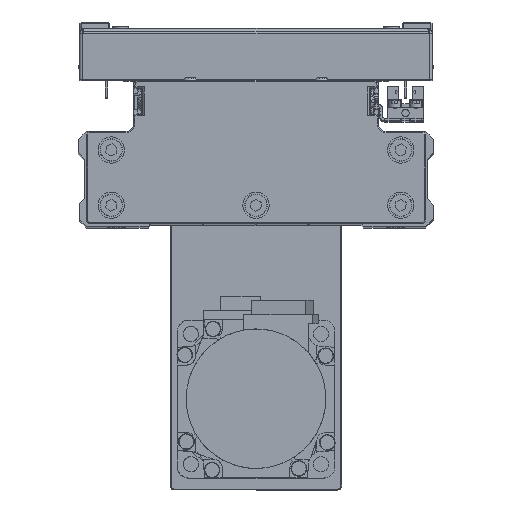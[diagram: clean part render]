
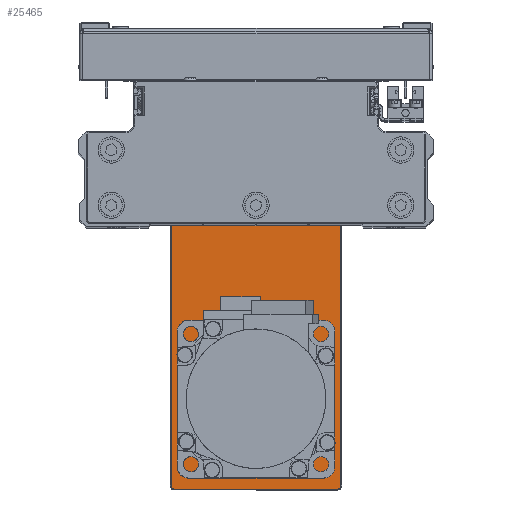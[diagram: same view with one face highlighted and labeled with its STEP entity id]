
A CAD part, top view. The second image highlights one B-rep face of the part: STEP entity #25465.
In plain terms, the highlighted planar face has unit normal (0, 0, 1) as drawn and (0, 1, 0) by its records, which use the part's own axes.
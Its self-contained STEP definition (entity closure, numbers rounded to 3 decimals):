
#211 = DIRECTION ( 'NONE',  ( -1., 0., 0. ) ) ;
#423 = CIRCLE ( 'NONE', #25089, 1.525 ) ;
#1139 = DIRECTION ( 'NONE',  ( 0., 1., 0. ) ) ;
#1175 = CARTESIAN_POINT ( 'NONE',  ( -50.5, 6., 0. ) ) ;
#1218 = CARTESIAN_POINT ( 'NONE',  ( 75.992, 6., -7.026 ) ) ;
#1502 = CARTESIAN_POINT ( 'NONE',  ( 84.7, 6., 31. ) ) ;
#1545 = EDGE_CURVE ( 'NONE', #28504, #30528, #8709, .T. ) ;
#1922 = DIRECTION ( 'NONE',  ( 0., 1., 0. ) ) ;
#3107 = CARTESIAN_POINT ( 'NONE',  ( -83.5, 6., -31. ) ) ;
#3225 = CARTESIAN_POINT ( 'NONE',  ( -50.5, 6., 0. ) ) ;
#4099 = LINE ( 'NONE', #17583, #33161 ) ;
#5066 = CARTESIAN_POINT ( 'NONE',  ( 83.5, 6., -31. ) ) ;
#5354 = CARTESIAN_POINT ( 'NONE',  ( 0., 6., 0. ) ) ;
#5925 = EDGE_CURVE ( 'NONE', #13039, #28504, #37949, .T. ) ;
#6423 = DIRECTION ( 'NONE',  ( 0., 0., -1. ) ) ;
#6665 = EDGE_CURVE ( 'NONE', #17266, #29186, #34546, .T. ) ;
#6845 = DIRECTION ( 'NONE',  ( 0., 0., -1. ) ) ;
#6988 = EDGE_CURVE ( 'NONE', #10129, #25588, #4099, .T. ) ;
#7180 = CARTESIAN_POINT ( 'NONE',  ( 61.051, 6., 25.017 ) ) ;
#7294 = DIRECTION ( 'NONE',  ( 0., 0., 1. ) ) ;
#7670 = AXIS2_PLACEMENT_3D ( 'NONE', #1175, #14646, #28095 ) ;
#7687 = AXIS2_PLACEMENT_3D ( 'NONE', #5354, #18835, #32276 ) ;
#7691 = CARTESIAN_POINT ( 'NONE',  ( 0., 6., 32.2 ) ) ;
#7777 = EDGE_LOOP ( 'NONE', ( #35139, #20414, #18039, #18861, #39254, #39936, #21600, #19671 ) ) ;
#7851 = DIRECTION ( 'NONE',  ( 0., 0., -1. ) ) ;
#8149 = CARTESIAN_POINT ( 'NONE',  ( 83.5, 6., 32.2 ) ) ;
#8670 = FACE_OUTER_BOUND ( 'NONE', #7777, .T. ) ;
#8709 = CIRCLE ( 'NONE', #33382, 1.2 ) ;
#8858 = EDGE_CURVE ( 'NONE', #37905, #39900, #28564, .T. ) ;
#9545 = AXIS2_PLACEMENT_3D ( 'NONE', #31370, #1139, #14616 ) ;
#9618 = VECTOR ( 'NONE', #7851, 1000. ) ;
#9661 = CARTESIAN_POINT ( 'NONE',  ( 52.5, 6., 0. ) ) ;
#10129 = VERTEX_POINT ( 'NONE', #19786 ) ;
#10370 = CARTESIAN_POINT ( 'NONE',  ( 75.992, 6., -10.076 ) ) ;
#11040 = DIRECTION ( 'NONE',  ( 0., 1., 0. ) ) ;
#11703 = CIRCLE ( 'NONE', #36370, 15. ) ;
#11977 = FACE_BOUND ( 'NONE', #22394, .T. ) ;
#12167 = CIRCLE ( 'NONE', #36841, 10.3 ) ;
#12427 = VERTEX_POINT ( 'NONE', #43215 ) ;
#12963 = EDGE_CURVE ( 'NONE', #25989, #16066, #26706, .T. ) ;
#13039 = VERTEX_POINT ( 'NONE', #21691 ) ;
#13098 = VERTEX_POINT ( 'NONE', #15282 ) ;
#13247 = ORIENTED_EDGE ( 'NONE', *, *, #6665, .F. ) ;
#13308 = DIRECTION ( 'NONE',  ( 0., 0., 1. ) ) ;
#13504 = EDGE_CURVE ( 'NONE', #13932, #26601, #22512, .T. ) ;
#13932 = VERTEX_POINT ( 'NONE', #33178 ) ;
#14616 = DIRECTION ( 'NONE',  ( 0., 0., 1. ) ) ;
#14646 = DIRECTION ( 'NONE',  ( 0., 1., 0. ) ) ;
#15037 = CARTESIAN_POINT ( 'NONE',  ( -84.7, 6., 31. ) ) ;
#15282 = CARTESIAN_POINT ( 'NONE',  ( -83.5, 6., -32.2 ) ) ;
#15384 = DIRECTION ( 'NONE',  ( 0., 0., 1. ) ) ;
#15398 = EDGE_CURVE ( 'NONE', #12427, #17067, #12167, .T. ) ;
#15470 = ORIENTED_EDGE ( 'NONE', *, *, #34548, .F. ) ;
#15513 = AXIS2_PLACEMENT_3D ( 'NONE', #32156, #1922, #15384 ) ;
#16066 = VERTEX_POINT ( 'NONE', #32103 ) ;
#16136 = CIRCLE ( 'NONE', #40810, 1.2 ) ;
#16578 = DIRECTION ( 'NONE',  ( 0., 1., 0. ) ) ;
#16706 = DIRECTION ( 'NONE',  ( 0., 1., 0. ) ) ;
#16997 = LINE ( 'NONE', #30447, #42855 ) ;
#17067 = VERTEX_POINT ( 'NONE', #39274 ) ;
#17266 = VERTEX_POINT ( 'NONE', #10370 ) ;
#17447 = CIRCLE ( 'NONE', #42071, 1.2 ) ;
#17583 = CARTESIAN_POINT ( 'NONE',  ( -84.7, 6., 0. ) ) ;
#17687 = AXIS2_PLACEMENT_3D ( 'NONE', #9661, #23139, #36572 ) ;
#17883 = CARTESIAN_POINT ( 'NONE',  ( -50.5, 6., -15. ) ) ;
#17988 = EDGE_CURVE ( 'NONE', #25588, #13039, #16136, .T. ) ;
#18039 = ORIENTED_EDGE ( 'NONE', *, *, #39427, .T. ) ;
#18538 = DIRECTION ( 'NONE',  ( 0., 1., 0. ) ) ;
#18549 = AXIS2_PLACEMENT_3D ( 'NONE', #24098, #37551, #7294 ) ;
#18835 = DIRECTION ( 'NONE',  ( 0., -1., 0. ) ) ;
#18861 = ORIENTED_EDGE ( 'NONE', *, *, #6988, .T. ) ;
#19671 = ORIENTED_EDGE ( 'NONE', *, *, #36875, .T. ) ;
#19786 = CARTESIAN_POINT ( 'NONE',  ( -84.7, 6., -31. ) ) ;
#20414 = ORIENTED_EDGE ( 'NONE', *, *, #24771, .T. ) ;
#20485 = ORIENTED_EDGE ( 'NONE', *, *, #21444, .F. ) ;
#21183 = DIRECTION ( 'NONE',  ( 1., 0., 0. ) ) ;
#21444 = EDGE_CURVE ( 'NONE', #16066, #25989, #11703, .T. ) ;
#21600 = ORIENTED_EDGE ( 'NONE', *, *, #1545, .T. ) ;
#21691 = CARTESIAN_POINT ( 'NONE',  ( -83.5, 6., 32.2 ) ) ;
#22142 = FACE_BOUND ( 'NONE', #42698, .T. ) ;
#22394 = EDGE_LOOP ( 'NONE', ( #15470, #43185 ) ) ;
#22512 = CIRCLE ( 'NONE', #28154, 1.2 ) ;
#22633 = ORIENTED_EDGE ( 'NONE', *, *, #32004, .T. ) ;
#23139 = DIRECTION ( 'NONE',  ( 0., -1., 0. ) ) ;
#23228 = CARTESIAN_POINT ( 'NONE',  ( 52.5, 6., 0. ) ) ;
#23640 = CARTESIAN_POINT ( 'NONE',  ( -83.5, 6., 31. ) ) ;
#24098 = CARTESIAN_POINT ( 'NONE',  ( 61.051, 6., 23.492 ) ) ;
#24516 = DIRECTION ( 'NONE',  ( 0., 0., -1. ) ) ;
#24644 = LINE ( 'NONE', #38103, #9618 ) ;
#24771 = EDGE_CURVE ( 'NONE', #26601, #13098, #16997, .T. ) ;
#25089 = AXIS2_PLACEMENT_3D ( 'NONE', #30080, #43524, #13308 ) ;
#25455 = FACE_BOUND ( 'NONE', #41074, .T. ) ;
#25465 = ADVANCED_FACE ( 'NONE', ( #11977, #25455, #38912, #8670, #22142 ), #35585, .F. ) ;
#25588 = VERTEX_POINT ( 'NONE', #15037 ) ;
#25689 = CARTESIAN_POINT ( 'NONE',  ( 83.5, 6., -32.2 ) ) ;
#25989 = VERTEX_POINT ( 'NONE', #17883 ) ;
#26601 = VERTEX_POINT ( 'NONE', #25689 ) ;
#26706 = CIRCLE ( 'NONE', #7670, 15. ) ;
#26870 = VECTOR ( 'NONE', #21183, 1000. ) ;
#28095 = DIRECTION ( 'NONE',  ( 0., 0., 1. ) ) ;
#28154 = AXIS2_PLACEMENT_3D ( 'NONE', #5066, #18538, #31987 ) ;
#28504 = VERTEX_POINT ( 'NONE', #8149 ) ;
#28564 = CIRCLE ( 'NONE', #9545, 1.525 ) ;
#29186 = VERTEX_POINT ( 'NONE', #1218 ) ;
#30035 = DIRECTION ( 'NONE',  ( 0., 0., -1. ) ) ;
#30080 = CARTESIAN_POINT ( 'NONE',  ( 75.992, 6., -8.551 ) ) ;
#30149 = DIRECTION ( 'NONE',  ( 0., 0., 1. ) ) ;
#30447 = CARTESIAN_POINT ( 'NONE',  ( 0., 6., -32.2 ) ) ;
#30528 = VERTEX_POINT ( 'NONE', #1502 ) ;
#30798 = ORIENTED_EDGE ( 'NONE', *, *, #15398, .T. ) ;
#31029 = DIRECTION ( 'NONE',  ( 0., 0., 1. ) ) ;
#31370 = CARTESIAN_POINT ( 'NONE',  ( 61.051, 6., 23.492 ) ) ;
#31987 = DIRECTION ( 'NONE',  ( 0., 0., -1. ) ) ;
#32004 = EDGE_CURVE ( 'NONE', #17067, #12427, #36699, .T. ) ;
#32103 = CARTESIAN_POINT ( 'NONE',  ( -50.5, 6., 15. ) ) ;
#32156 = CARTESIAN_POINT ( 'NONE',  ( 75.992, 6., -8.551 ) ) ;
#32276 = DIRECTION ( 'NONE',  ( 0., 0., -1. ) ) ;
#33161 = VECTOR ( 'NONE', #31029, 1000. ) ;
#33178 = CARTESIAN_POINT ( 'NONE',  ( 84.7, 6., -31. ) ) ;
#33382 = AXIS2_PLACEMENT_3D ( 'NONE', #41259, #11040, #24516 ) ;
#34546 = CIRCLE ( 'NONE', #15513, 1.525 ) ;
#34548 = EDGE_CURVE ( 'NONE', #39900, #37905, #37592, .T. ) ;
#34872 = ORIENTED_EDGE ( 'NONE', *, *, #37997, .F. ) ;
#35139 = ORIENTED_EDGE ( 'NONE', *, *, #13504, .T. ) ;
#35585 = PLANE ( 'NONE',  #7687 ) ;
#36370 = AXIS2_PLACEMENT_3D ( 'NONE', #3225, #16706, #30149 ) ;
#36572 = DIRECTION ( 'NONE',  ( 0., 0., -1. ) ) ;
#36665 = DIRECTION ( 'NONE',  ( 0., -1., 0. ) ) ;
#36699 = CIRCLE ( 'NONE', #17687, 10.3 ) ;
#36841 = AXIS2_PLACEMENT_3D ( 'NONE', #23228, #36665, #6423 ) ;
#36875 = EDGE_CURVE ( 'NONE', #30528, #13932, #24644, .T. ) ;
#37090 = DIRECTION ( 'NONE',  ( 0., 1., 0. ) ) ;
#37551 = DIRECTION ( 'NONE',  ( 0., 1., 0. ) ) ;
#37592 = CIRCLE ( 'NONE', #18549, 1.525 ) ;
#37905 = VERTEX_POINT ( 'NONE', #39571 ) ;
#37949 = LINE ( 'NONE', #7691, #26870 ) ;
#37997 = EDGE_CURVE ( 'NONE', #29186, #17266, #423, .T. ) ;
#38103 = CARTESIAN_POINT ( 'NONE',  ( 84.7, 6., 0. ) ) ;
#38912 = FACE_BOUND ( 'NONE', #42097, .T. ) ;
#39254 = ORIENTED_EDGE ( 'NONE', *, *, #17988, .T. ) ;
#39274 = CARTESIAN_POINT ( 'NONE',  ( 52.5, 6., 10.3 ) ) ;
#39427 = EDGE_CURVE ( 'NONE', #13098, #10129, #17447, .T. ) ;
#39571 = CARTESIAN_POINT ( 'NONE',  ( 61.051, 6., 21.967 ) ) ;
#39900 = VERTEX_POINT ( 'NONE', #7180 ) ;
#39936 = ORIENTED_EDGE ( 'NONE', *, *, #5925, .T. ) ;
#40810 = AXIS2_PLACEMENT_3D ( 'NONE', #23640, #37090, #6845 ) ;
#41074 = EDGE_LOOP ( 'NONE', ( #34872, #13247 ) ) ;
#41259 = CARTESIAN_POINT ( 'NONE',  ( 83.5, 6., 31. ) ) ;
#42071 = AXIS2_PLACEMENT_3D ( 'NONE', #3107, #16578, #30035 ) ;
#42097 = EDGE_LOOP ( 'NONE', ( #22633, #30798 ) ) ;
#42341 = ORIENTED_EDGE ( 'NONE', *, *, #12963, .F. ) ;
#42698 = EDGE_LOOP ( 'NONE', ( #20485, #42341 ) ) ;
#42855 = VECTOR ( 'NONE', #211, 1000. ) ;
#43185 = ORIENTED_EDGE ( 'NONE', *, *, #8858, .F. ) ;
#43215 = CARTESIAN_POINT ( 'NONE',  ( 52.5, 6., -10.3 ) ) ;
#43524 = DIRECTION ( 'NONE',  ( 0., 1., 0. ) ) ;
